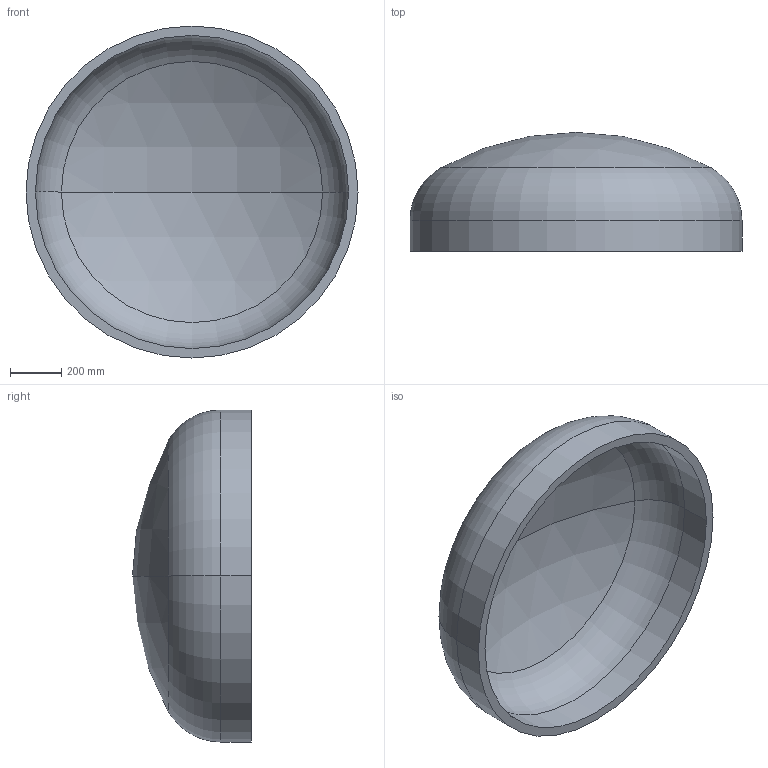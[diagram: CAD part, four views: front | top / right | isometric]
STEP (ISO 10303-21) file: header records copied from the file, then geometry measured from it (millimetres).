
FILE_DESCRIPTION (( 'STEP AP203' ), '1' );
FILE_NAME ('DIN 28013 Korbbogenform_-_Boden DIN 28013 - 1300 x 120 - I - s=37.step', '2016-07-01T09:50:15', ( '' ), ( '' ), 'SwSTEP 2.0', 'SolidWorks 2013', '' );
FILE_SCHEMA (( 'CONFIG_CONTROL_DESIGN' ));
Length unit declared in the file: millimetre
Products named in the file (1): DIN 28013 Korbbogenform_-_Boden DIN 28013 - 1300 x 120 - I - s=37
Bounding box: 1300 x 465.54 x 1300 mm (x, y, z)
Volume: 83136349 mm3; surface area: 4643532.4 mm2
Topology: 1 solids, 1 shells, 13 faces, 24 edges, 14 vertices
Faces by surface type: torus 4, cylinder 4, sphere 4, plane 1
Entity records: 407 total; most frequent: DIRECTION 72, CARTESIAN_POINT 52, ORIENTED_EDGE 48, AXIS2_PLACEMENT_3D 34, EDGE_CURVE 24, CIRCLE 20, VERTEX_POINT 14, EDGE_LOOP 14
